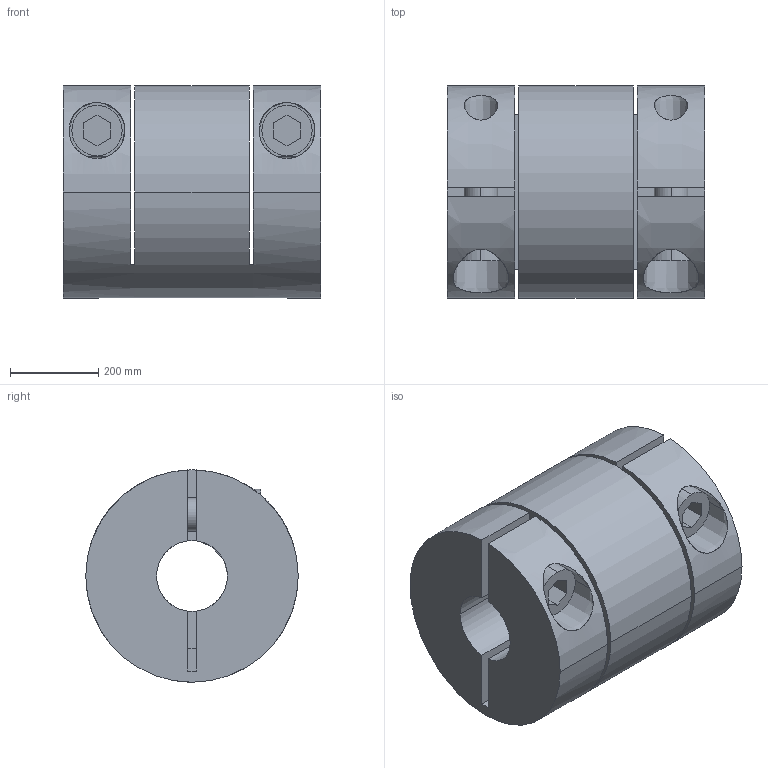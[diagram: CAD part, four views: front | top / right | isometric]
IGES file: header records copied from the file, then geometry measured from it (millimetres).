
Global section: file name: C:\Documents and Settings\Administrator\Desktop\Transfer Temp\shaftcoupling.igs; native system: AutoDesk Inventor R2.0 ; preprocessor: AutoDesk Inventor Iges Exporter R2.0; author: No Author specified; organization: No Organization specified; date: 20020113.190544; units: inch
Bounding box: 584.2 x 482.6 x 482.6 mm (x, y, z)
Surface area: 2576530.9 mm2 (no closed solid volume)
Topology: 0 solids, 0 shells, 74 faces, 396 edges, 396 vertices
Faces by surface type: bspline 42, revolution 32
